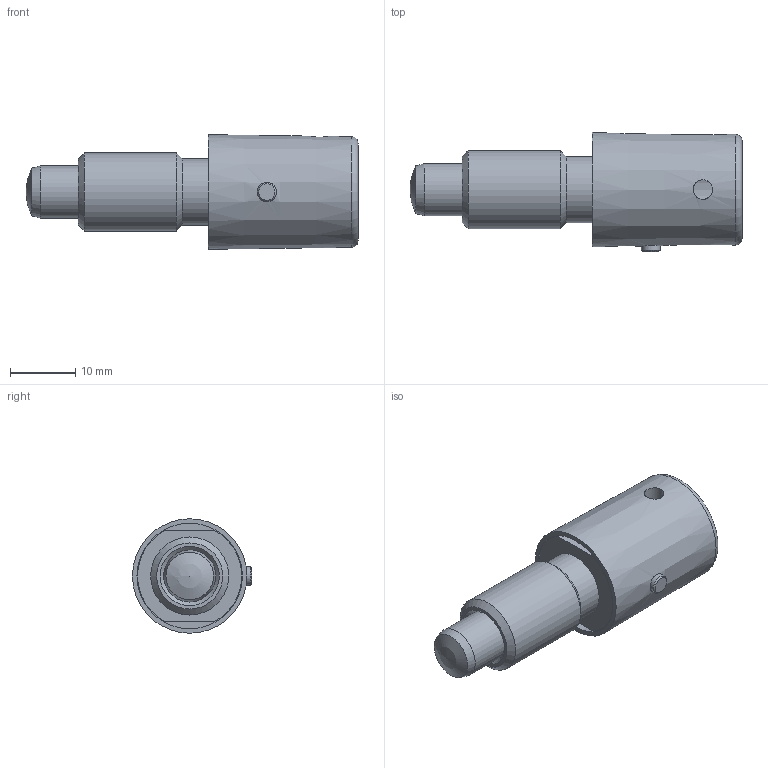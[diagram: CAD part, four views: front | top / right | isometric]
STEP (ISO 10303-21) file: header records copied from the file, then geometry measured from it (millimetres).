
FILE_DESCRIPTION( ( 'STEP AP203' ), '1' );
FILE_NAME( 'C:/Temp/Ganter_Step_05_03_2020/data/3_1/gn816/gn_816_b/Locking plunger GN 816-8-M12x1,5-B (deactivated).stp', '2020-03-12T08:55:56', ( 'License CC BY-ND 4.0' ), ( 'CADENAS' ), ' ', 'PARTsolutions', ' ' );
FILE_SCHEMA( ( 'CONFIG_CONTROL_DESIGN' ) );
Length unit declared in the file: millimetre
Products named in the file (3): Locking plunger GN 816-8-M12x1,5-B (deactivated); _GN 816-8-M12x1,5-B(0)-b2; _GN 816-8-M12x1,5-Bb1
Assembly tree (2 placements, depth 2):
  Locking plunger GN 816-8-M12x1,5-B (deactivated)
    _GN 816-8-M12x1,5-B(0)-b2
    _GN 816-8-M12x1,5-Bb1
Bounding box: 51 x 18.3 x 17.59 mm (x, y, z)
Volume: 6187.7 mm3; surface area: 5188.9 mm2
Topology: 2 solids, 2 shells, 38 faces, 73 edges, 46 vertices
Faces by surface type: cylinder 13, plane 13, cone 9, torus 2, sphere 1
Full cylindrical faces by diameter (mm): 2.9 x2, 3 x2, 5.9 x1, 8 x2, 10.2 x1, 11.1 x1, 12 x1, 16.2 x1
Entity records: 1226 total; most frequent: CARTESIAN_POINT 430, DIRECTION 154, ORIENTED_EDGE 92, EDGE_LOOP 74, AXIS2_PLACEMENT_3D 73, FACE_OUTER_BOUND 51, EDGE_CURVE 46, VERTEX_POINT 43
